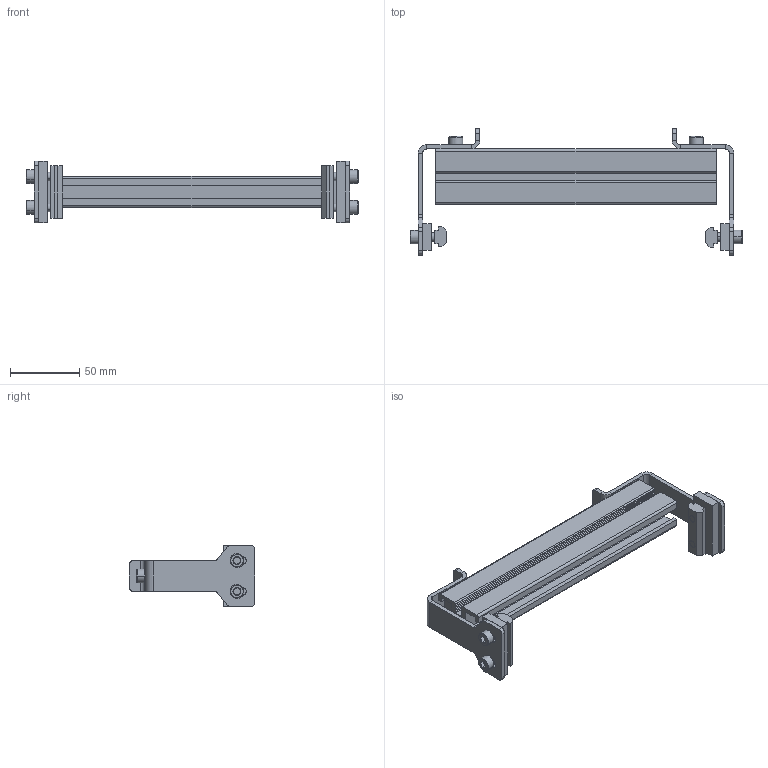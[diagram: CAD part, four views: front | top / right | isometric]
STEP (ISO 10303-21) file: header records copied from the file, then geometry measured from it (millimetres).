
FILE_DESCRIPTION (( 'STEP AP203' ), '1' );
FILE_NAME ('207137-08.STEP', '2021-08-05T18:32:50', ( '' ), ( '' ), 'SwSTEP 2.0', 'SolidWorks 2019', '' );
FILE_SCHEMA (( 'CONFIG_CONTROL_DESIGN' ));
Length unit declared in the file: inch
Products named in the file (8): 639971M_CAE; 200626M; 9206XXM_920620M; 207135-WW_207135-08; 9206XXM_920614M; 202444; 207134; 207137-08
Assembly tree (15 placements, depth 2):
  207137-08
    207134  x2
    207135-WW_207135-08
    202444  x2
    200626M  x2
    639971M_CAE  x2
    9206XXM_920614M  x2
    9206XXM_920620M  x4
Bounding box: 238.97 x 90.68 x 44.45 mm (x, y, z)
Volume: 127039.7 mm3; surface area: 80764.4 mm2
Topology: 15 solids, 15 shells, 432 faces, 1042 edges, 652 vertices
Faces by surface type: plane 258, cylinder 108, cone 66
Entity records: 8328 total; most frequent: CARTESIAN_POINT 1374, DIRECTION 1230, ORIENTED_EDGE 1212, EDGE_CURVE 606, LINE 462, VECTOR 462, VERTEX_POINT 388, AXIS2_PLACEMENT_3D 384
